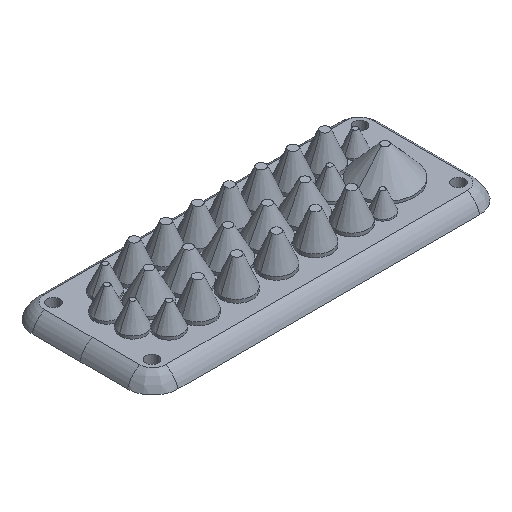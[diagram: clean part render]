
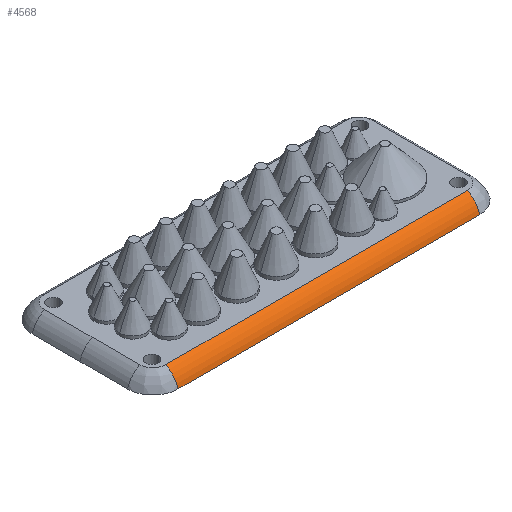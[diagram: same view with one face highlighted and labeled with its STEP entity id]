
A CAD part, isometric view. The second image highlights one B-rep face of the part: STEP entity #4568.
In plain terms, the highlighted free-form (B-spline) face has degree [3, 1] with [4, 2] control points.
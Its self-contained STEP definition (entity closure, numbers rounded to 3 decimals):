
#470 = CARTESIAN_POINT ( 'NONE',  ( 15.7, -0.167, -9.5 ) ) ;
#477 = CARTESIAN_POINT ( 'NONE',  ( 205.7, -0.167, -9.5 ) ) ;
#479 = CARTESIAN_POINT ( 'NONE',  ( 205.699, 1.062, -5.419 ) ) ;
#480 = CARTESIAN_POINT ( 'NONE',  ( 15.699, 1.062, -5.419 ) ) ;
#481 = CARTESIAN_POINT ( 'NONE',  ( 205.698, 3.725, -2.092 ) ) ;
#482 = CARTESIAN_POINT ( 'NONE',  ( 15.698, 3.725, -2.092 ) ) ;
#483 = CARTESIAN_POINT ( 'NONE',  ( 205.695, 7.438, 0. ) ) ;
#484 = CARTESIAN_POINT ( 'NONE',  ( 15.695, 7.438, 0. ) ) ;
#2264 = VERTEX_POINT ( 'NONE', #5322 ) ;
#2352 = VERTEX_POINT ( 'NONE', #4739 ) ;
#2417 = VERTEX_POINT ( 'NONE', #3539 ) ;
#2459 = VERTEX_POINT ( 'NONE', #4383 ) ;
#2514 = EDGE_LOOP ( 'NONE', ( #5861, #5696, #6049, #5685 ) ) ;
#3198 = EDGE_CURVE ( 'NONE', #2264, #2352, #8538, .T. ) ;
#3206 = EDGE_CURVE ( 'NONE', #2417, #2459, #8545, .T. ) ;
#3225 = EDGE_CURVE ( 'NONE', #2417, #2264, #8565, .T. ) ;
#3226 = EDGE_CURVE ( 'NONE', #2459, #2352, #8567, .T. ) ;
#3352 = AXIS2_PLACEMENT_3D ( 'NONE', #9610, #9611, #9612 ) ;
#3360 = AXIS2_PLACEMENT_3D ( 'NONE', #9635, #9636, #9637 ) ;
#3539 = CARTESIAN_POINT ( 'NONE',  ( 205.7, -0.167, -9.5 ) ) ;
#4191 =( BOUNDED_SURFACE ( )  B_SPLINE_SURFACE ( 3, 1, ( 
 ( #477, #470 ),
 ( #479, #480 ),
 ( #481, #482 ),
 ( #483, #484 ) ),
 .UNSPECIFIED., .F., .F., .T. ) 
 B_SPLINE_SURFACE_WITH_KNOTS ( ( 4, 4 ),
 ( 2, 2 ),
 ( 0., 1. ),
 ( 0., 1. ),
 .UNSPECIFIED. ) 
 GEOMETRIC_REPRESENTATION_ITEM ( )  RATIONAL_B_SPLINE_SURFACE ( (
 ( 1., 1.),
 ( 0.952, 0.952),
 ( 0.952, 0.952),
 ( 1., 1.) ) ) 
 REPRESENTATION_ITEM ( '' )  SURFACE ( )  );
#4383 = CARTESIAN_POINT ( 'NONE',  ( 205.695, 7.438, 0. ) ) ;
#4568 = ADVANCED_FACE ( 'NONE', ( #8801 ), #4191, .T. ) ;
#4739 = CARTESIAN_POINT ( 'NONE',  ( 15.695, 7.438, 0. ) ) ;
#5322 = CARTESIAN_POINT ( 'NONE',  ( 15.7, -0.167, -9.5 ) ) ;
#5685 = ORIENTED_EDGE ( 'NONE', *, *, #3225, .F. ) ;
#5696 = ORIENTED_EDGE ( 'NONE', *, *, #3226, .T. ) ;
#5861 = ORIENTED_EDGE ( 'NONE', *, *, #3206, .T. ) ;
#6049 = ORIENTED_EDGE ( 'NONE', *, *, #3198, .F. ) ;
#8538 = CIRCLE ( 'NONE', #3352, 16.3 ) ;
#8545 = CIRCLE ( 'NONE', #3360, 16.3 ) ;
#8565 = LINE ( 'NONE', #9689, #8568 ) ;
#8567 = LINE ( 'NONE', #9693, #8570 ) ;
#8568 = VECTOR ( 'NONE', #9625, 1000. ) ;
#8570 = VECTOR ( 'NONE', #9694, 1000. ) ;
#8801 = FACE_OUTER_BOUND ( 'NONE', #2514, .T. ) ;
#9610 = CARTESIAN_POINT ( 'NONE',  ( 15.691, 15.441, -14.2 ) ) ;
#9611 = DIRECTION ( 'NONE',  ( -1., -0.001, 0. ) ) ;
#9612 = DIRECTION ( 'NONE',  ( 0., 0., 1. ) ) ;
#9625 = DIRECTION ( 'NONE',  ( -1., 0., 0. ) ) ;
#9635 = CARTESIAN_POINT ( 'NONE',  ( 205.691, 15.441, -14.2 ) ) ;
#9636 = DIRECTION ( 'NONE',  ( -1., -0.001, 0. ) ) ;
#9637 = DIRECTION ( 'NONE',  ( 0., 0., 1. ) ) ;
#9689 = CARTESIAN_POINT ( 'NONE',  ( 205.7, -0.167, -9.5 ) ) ;
#9693 = CARTESIAN_POINT ( 'NONE',  ( 205.695, 7.438, 0. ) ) ;
#9694 = DIRECTION ( 'NONE',  ( -1., 0., 0. ) ) ;
